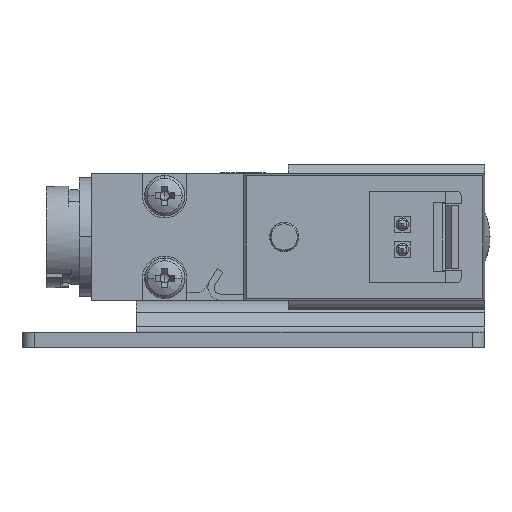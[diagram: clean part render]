
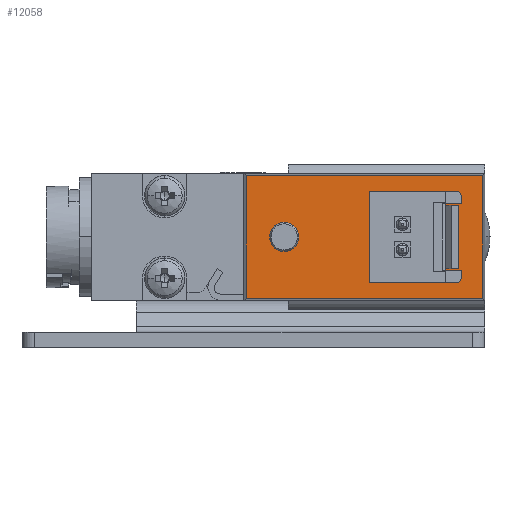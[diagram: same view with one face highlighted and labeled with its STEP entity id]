
A CAD part, left-side view. The second image highlights one B-rep face of the part: STEP entity #12058.
In plain terms, the highlighted planar face has unit normal (-1, 0, 0) as drawn and (0, 0, 1) by its records, which use the part's own axes.
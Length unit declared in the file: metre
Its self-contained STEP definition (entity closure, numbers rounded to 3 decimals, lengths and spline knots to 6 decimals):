
#50 = EDGE_CURVE ( 'NONE', #8970, #3816, #16863, .T. ) ;
#643 = ORIENTED_EDGE ( 'NONE', *, *, #10046, .F. ) ;
#715 = VECTOR ( 'NONE', #17126, 1. ) ;
#866 =( BOUNDED_CURVE ( )  B_SPLINE_CURVE ( 3, ( #4859, #6246, #15826, #7596 ),
 .UNSPECIFIED., .F., .F. ) 
 B_SPLINE_CURVE_WITH_KNOTS ( ( 4, 4 ),
 ( 0., 0.001563 ),
 .UNSPECIFIED. ) 
 CURVE ( )  GEOMETRIC_REPRESENTATION_ITEM ( )  RATIONAL_B_SPLINE_CURVE ( ( 0.957, 0.319, 0.319, 0.957 ) ) 
 REPRESENTATION_ITEM ( '' )  );
#924 = ORIENTED_EDGE ( 'NONE', *, *, #6447, .F. ) ;
#1267 = LINE ( 'NONE', #11166, #12123 ) ;
#1411 = DIRECTION ( 'NONE',  ( -1., 0., 0. ) ) ;
#1522 = DIRECTION ( 'NONE',  ( 0., 0., -1. ) ) ;
#1581 = CARTESIAN_POINT ( 'NONE',  ( 0., 0.016825, 0.005 ) ) ;
#1799 = DIRECTION ( 'NONE',  ( -1., 0., 0. ) ) ;
#1818 = CARTESIAN_POINT ( 'NONE',  ( -0.0015, 0.0075, 0.005 ) ) ;
#1819 = CIRCLE ( 'NONE', #16905, 0.00115 ) ;
#1938 = CARTESIAN_POINT ( 'NONE',  ( -0.0005, 0.0085, 0.005 ) ) ;
#1946 = EDGE_CURVE ( 'NONE', #9547, #8833, #5063, .T. ) ;
#2578 = CARTESIAN_POINT ( 'NONE',  ( -0.0005, 0.0065, 0.005 ) ) ;
#3008 = DIRECTION ( 'NONE',  ( 1., 0., 0. ) ) ;
#3025 = LINE ( 'NONE', #9901, #6252 ) ;
#3108 = CARTESIAN_POINT ( 'NONE',  ( -0.004825, 0.0105, 0.005 ) ) ;
#3408 = FACE_OUTER_BOUND ( 'NONE', #10471, .T. ) ;
#3754 = CARTESIAN_POINT ( 'NONE',  ( 0.00115, 0.016825, 0.005 ) ) ;
#3816 = VERTEX_POINT ( 'NONE', #1818 ) ;
#3998 = VERTEX_POINT ( 'NONE', #6446 ) ;
#4219 = VERTEX_POINT ( 'NONE', #11000 ) ;
#4571 =( BOUNDED_CURVE ( )  B_SPLINE_CURVE ( 3, ( #14815, #16228, #2578, #12094 ),
 .UNSPECIFIED., .F., .F. ) 
 B_SPLINE_CURVE_WITH_KNOTS ( ( 4, 4 ),
 ( 0., 0.001563 ),
 .UNSPECIFIED. ) 
 CURVE ( )  GEOMETRIC_REPRESENTATION_ITEM ( )  RATIONAL_B_SPLINE_CURVE ( ( 0.957, 0.319, 0.319, 0.957 ) ) 
 REPRESENTATION_ITEM ( '' )  );
#4683 = CARTESIAN_POINT ( 'NONE',  ( -0.0015, 0.0085, 0.005 ) ) ;
#4692 = VERTEX_POINT ( 'NONE', #7171 ) ;
#4859 = CARTESIAN_POINT ( 'NONE',  ( 0.0005, 0.0075, 0.005 ) ) ;
#4866 = VECTOR ( 'NONE', #12655, 1. ) ;
#5063 = CIRCLE ( 'NONE', #13013, 0.00115 ) ;
#5337 = CARTESIAN_POINT ( 'NONE',  ( -0.0005, 0.0075, 0.005 ) ) ;
#6246 = CARTESIAN_POINT ( 'NONE',  ( 0.0005, 0.0065, 0.005 ) ) ;
#6252 = VECTOR ( 'NONE', #16848, 1. ) ;
#6379 = CARTESIAN_POINT ( 'NONE',  ( 0., 0.016825, 0.005 ) ) ;
#6431 = EDGE_LOOP ( 'NONE', ( #13509, #16769 ) ) ;
#6446 = CARTESIAN_POINT ( 'NONE',  ( 0.004825, 0.001175, 0.005 ) ) ;
#6447 = EDGE_CURVE ( 'NONE', #3998, #14363, #3025, .T. ) ;
#6503 = CARTESIAN_POINT ( 'NONE',  ( 0.0015, 0.0075, 0.005 ) ) ;
#6831 = CARTESIAN_POINT ( 'NONE',  ( 0.004825, 0.001175, 0.005 ) ) ;
#7171 = CARTESIAN_POINT ( 'NONE',  ( 0.0015, 0.0075, 0.005 ) ) ;
#7361 = CARTESIAN_POINT ( 'NONE',  ( -0.0005, 0.0075, 0.005 ) ) ;
#7489 = EDGE_LOOP ( 'NONE', ( #7670, #12006 ) ) ;
#7499 = ORIENTED_EDGE ( 'NONE', *, *, #1946, .T. ) ;
#7577 = EDGE_CURVE ( 'NONE', #3816, #8970, #4571, .T. ) ;
#7596 = CARTESIAN_POINT ( 'NONE',  ( 0.0015, 0.0075, 0.005 ) ) ;
#7670 = ORIENTED_EDGE ( 'NONE', *, *, #8205, .F. ) ;
#7734 = DIRECTION ( 'NONE',  ( -1., 0., 0. ) ) ;
#7848 = CARTESIAN_POINT ( 'NONE',  ( 0.0015, 0.0085, 0.005 ) ) ;
#7947 = LINE ( 'NONE', #8863, #715 ) ;
#8199 = PLANE ( 'NONE',  #16879 ) ;
#8205 = EDGE_CURVE ( 'NONE', #4692, #16449, #17231, .T. ) ;
#8474 = LINE ( 'NONE', #3108, #4866 ) ;
#8833 = VERTEX_POINT ( 'NONE', #9073 ) ;
#8863 = CARTESIAN_POINT ( 'NONE',  ( 0.004825, 0.0105, 0.005 ) ) ;
#8864 = CARTESIAN_POINT ( 'NONE',  ( 0.0005, 0.0075, 0.005 ) ) ;
#8921 = CARTESIAN_POINT ( 'NONE',  ( -0.004825, 0.001175, 0.005 ) ) ;
#8970 = VERTEX_POINT ( 'NONE', #5337 ) ;
#9073 = CARTESIAN_POINT ( 'NONE',  ( -0.00115, 0.016825, 0.005 ) ) ;
#9218 = CARTESIAN_POINT ( 'NONE',  ( 0.0005, 0.0075, 0.005 ) ) ;
#9547 = VERTEX_POINT ( 'NONE', #3754 ) ;
#9548 = DIRECTION ( 'NONE',  ( 0., 0., -1. ) ) ;
#9901 = CARTESIAN_POINT ( 'NONE',  ( 0., 0.001175, 0.005 ) ) ;
#10046 = EDGE_CURVE ( 'NONE', #13027, #3998, #7947, .T. ) ;
#10191 = CARTESIAN_POINT ( 'NONE',  ( 0.004825, 0.019825, 0.005 ) ) ;
#10471 = EDGE_LOOP ( 'NONE', ( #13372, #14665, #924, #643 ) ) ;
#10636 = FACE_BOUND ( 'NONE', #7489, .T. ) ;
#11000 = CARTESIAN_POINT ( 'NONE',  ( -0.004825, 0.019825, 0.005 ) ) ;
#11066 = FACE_BOUND ( 'NONE', #6431, .T. ) ;
#11166 = CARTESIAN_POINT ( 'NONE',  ( 0., 0.019825, 0.005 ) ) ;
#11954 = EDGE_LOOP ( 'NONE', ( #16943, #7499 ) ) ;
#12006 = ORIENTED_EDGE ( 'NONE', *, *, #12440, .F. ) ;
#12058 = ADVANCED_FACE ( 'NONE', ( #17588, #10636, #11066, #3408 ), #8199, .F. ) ;
#12094 = CARTESIAN_POINT ( 'NONE',  ( -0.0005, 0.0075, 0.005 ) ) ;
#12123 = VECTOR ( 'NONE', #3008, 1. ) ;
#12175 = EDGE_CURVE ( 'NONE', #4219, #13027, #1267, .T. ) ;
#12440 = EDGE_CURVE ( 'NONE', #16449, #4692, #866, .T. ) ;
#12655 = DIRECTION ( 'NONE',  ( 0., 1., 0. ) ) ;
#13013 = AXIS2_PLACEMENT_3D ( 'NONE', #1581, #1522, #1799 ) ;
#13027 = VERTEX_POINT ( 'NONE', #10191 ) ;
#13372 = ORIENTED_EDGE ( 'NONE', *, *, #12175, .F. ) ;
#13509 = ORIENTED_EDGE ( 'NONE', *, *, #7577, .F. ) ;
#14363 = VERTEX_POINT ( 'NONE', #8921 ) ;
#14419 = EDGE_CURVE ( 'NONE', #8833, #9547, #1819, .T. ) ;
#14665 = ORIENTED_EDGE ( 'NONE', *, *, #15520, .F. ) ;
#14815 = CARTESIAN_POINT ( 'NONE',  ( -0.0015, 0.0075, 0.005 ) ) ;
#15520 = EDGE_CURVE ( 'NONE', #14363, #4219, #8474, .T. ) ;
#15579 = CARTESIAN_POINT ( 'NONE',  ( -0.0015, 0.0075, 0.005 ) ) ;
#15826 = CARTESIAN_POINT ( 'NONE',  ( 0.0015, 0.0065, 0.005 ) ) ;
#15960 = DIRECTION ( 'NONE',  ( 0., 0., -1. ) ) ;
#16228 = CARTESIAN_POINT ( 'NONE',  ( -0.0015, 0.0065, 0.005 ) ) ;
#16449 = VERTEX_POINT ( 'NONE', #8864 ) ;
#16769 = ORIENTED_EDGE ( 'NONE', *, *, #50, .F. ) ;
#16848 = DIRECTION ( 'NONE',  ( -1., 0., 0. ) ) ;
#16863 =( BOUNDED_CURVE ( )  B_SPLINE_CURVE ( 3, ( #7361, #1938, #4683, #15579 ),
 .UNSPECIFIED., .F., .F. ) 
 B_SPLINE_CURVE_WITH_KNOTS ( ( 4, 4 ),
 ( 0., 0.001563 ),
 .UNSPECIFIED. ) 
 CURVE ( )  GEOMETRIC_REPRESENTATION_ITEM ( )  RATIONAL_B_SPLINE_CURVE ( ( 0.957, 0.319, 0.319, 0.957 ) ) 
 REPRESENTATION_ITEM ( '' )  );
#16879 = AXIS2_PLACEMENT_3D ( 'NONE', #6831, #9548, #1411 ) ;
#16905 = AXIS2_PLACEMENT_3D ( 'NONE', #6379, #15960, #7734 ) ;
#16943 = ORIENTED_EDGE ( 'NONE', *, *, #14419, .T. ) ;
#17126 = DIRECTION ( 'NONE',  ( 0., -1., 0. ) ) ;
#17231 =( BOUNDED_CURVE ( )  B_SPLINE_CURVE ( 3, ( #6503, #7848, #17514, #9218 ),
 .UNSPECIFIED., .F., .F. ) 
 B_SPLINE_CURVE_WITH_KNOTS ( ( 4, 4 ),
 ( 0., 0.001563 ),
 .UNSPECIFIED. ) 
 CURVE ( )  GEOMETRIC_REPRESENTATION_ITEM ( )  RATIONAL_B_SPLINE_CURVE ( ( 0.957, 0.319, 0.319, 0.957 ) ) 
 REPRESENTATION_ITEM ( '' )  );
#17514 = CARTESIAN_POINT ( 'NONE',  ( 0.0005, 0.0085, 0.005 ) ) ;
#17588 = FACE_BOUND ( 'NONE', #11954, .T. ) ;
